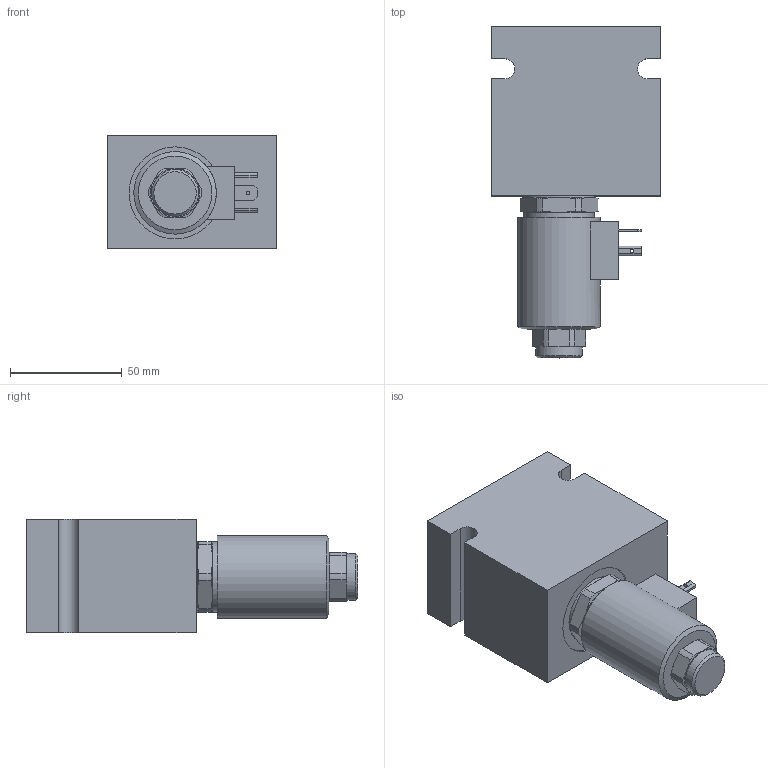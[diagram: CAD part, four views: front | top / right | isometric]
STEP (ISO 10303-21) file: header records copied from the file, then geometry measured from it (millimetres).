
FILE_DESCRIPTION( ( 'Unknown' ), '1' );
FILE_NAME( 'G:/Graphic Design/Graphic Design 2/Data Sheets/PROPORTIONAL CONTROLS/2_STEP/T-ETS2A0M_SM.stp', 'Unknown', ( 'Unknown' ), ( 'Unknown' ), 'PSStep 17.0.49', 'Unknown', ' ' );
FILE_SCHEMA( ( 'AUTOMOTIVE_DESIGN { 1 0 10303 214 1 1 1 1 }' ) );
Length unit declared in the file: millimetre
Products named in the file (13): T-60.0205.178; T-60.0205.178_Main; PT-EL-HC-TerminalConnectors; Assem1; T-ET-S2A-00-Body; D-TT-S2C-TOP O RING; D-TT-S2C-BOTTOM O RING; D-TT-S2C-BK RING; T-ET-S2A-CoilNut; B-DHTC2
Assembly tree (12 placements, depth 3):
  Assem1
    T-ET-S2A-00-Body
    D-TT-S2C-TOP O RING
    D-TT-S2C-BOTTOM O RING
    D-TT-S2C-BK RING
    T-ET-S2A-CoilNut
    B-DHTC2
    T-60.0205.178
      T-60.0205.178_Main
      PT-EL-HC-TerminalConnectors
      PT-EL-HC-TerminalConnectors
      PT-EL-HC-TerminalConnectors
      PT-EL-HC-TerminalConnectors
Bounding box: 76.2 x 148.8 x 50.8 mm (x, y, z)
Volume: 328292.7 mm3; surface area: 62519.1 mm2
Topology: 11 solids, 11 shells, 204 faces, 488 edges, 310 vertices
Faces by surface type: plane 95, cylinder 69, cone 37, torus 3
Full cylindrical faces by diameter (mm): 0.5 x1, 1 x1, 1.5 x3, 6.75 x4, 18 x1, 18.8 x4, 18.9 x1, 19 x2, 19.05 x1, 19.122 x1, 19.3 x1, 20 x2, 21 x1, 22 x1, 23.7 x1, 23.75 x2, 23.825 x1, 24.004 x1, 25.463 x2, 26.988 x1, 30.17 x2, 31.5 x2, 37 x1, 41.275 x1
Entity records: 7786 total; most frequent: CARTESIAN_POINT 1533, DIRECTION 942, ORIENTED_EDGE 822, EDGE_CURVE 411, AXIS2_PLACEMENT_3D 389, VERTEX_POINT 290, EDGE_LOOP 282, FACE_OUTER_BOUND 241
